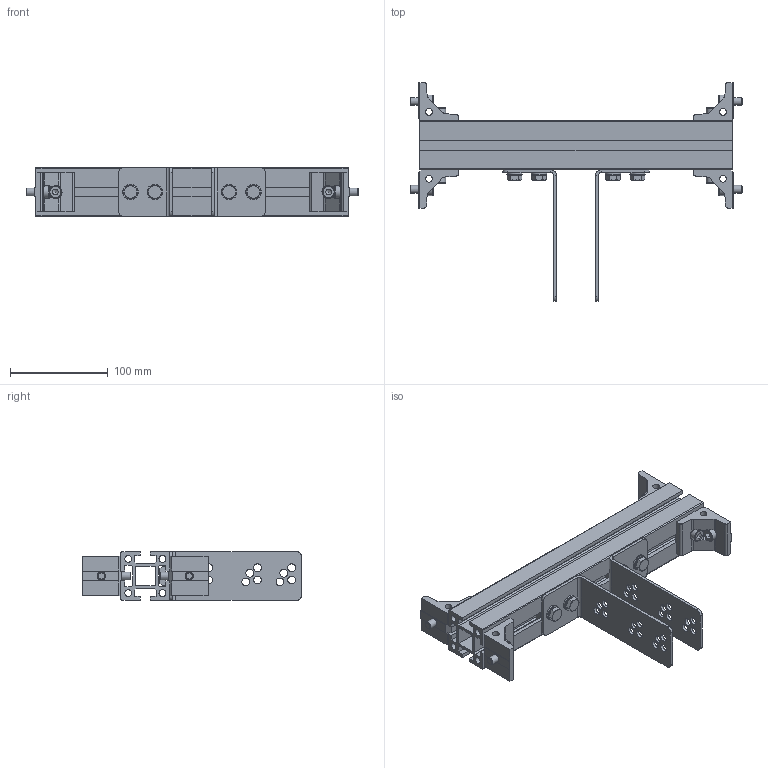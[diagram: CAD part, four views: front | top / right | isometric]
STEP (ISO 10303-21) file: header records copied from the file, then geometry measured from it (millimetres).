
FILE_DESCRIPTION(/* description */ ('Stopper-Befestigungssatz mittig'),/* implementation_level */ '2;1');
FILE_NAME(/* name */ 'C:\Marketing\01_Versamove-SPU_STEP-Dateien-Homepage\Versamove plus\Stopper\Stopper-Befestigungssatz mittig.stp',/* time_stamp */ '2017-02-01T14:49:10+01:00',/* author */ ('herbert.engels'),/* organization */ (''),/* preprocessor_version */ 'ST-DEVELOPER v15.6',/* originating_system */ 'Autodesk Inventor 2015',/* authorisation */ '');
FILE_SCHEMA (('CONFIG_CONTROL_DESIGN'));
Length unit declared in the file: millimetre
Products named in the file (1): Stopper-Befestigungssatz mittig
Bounding box: 340.4 x 224.3 x 50 mm (x, y, z)
Volume: 519864.9 mm3; surface area: 248146.2 mm2
Topology: 9 solids, 9 shells, 462 faces, 1204 edges, 772 vertices
Faces by surface type: plane 282, cylinder 120, cone 44, torus 16
Full cylindrical faces by diameter (mm): 7 x8, 8 x36, 8.4 x8, 11.4 x4, 13 x12, 13.5 x8, 16 x4
Entity records: 14178 total; most frequent: CARTESIAN_POINT 2619, DIRECTION 2186, ORIENTED_EDGE 2136, EDGE_CURVE 1068, AXIS2_PLACEMENT_3D 767, VERTEX_POINT 752, EDGE_LOOP 696, LINE 652
